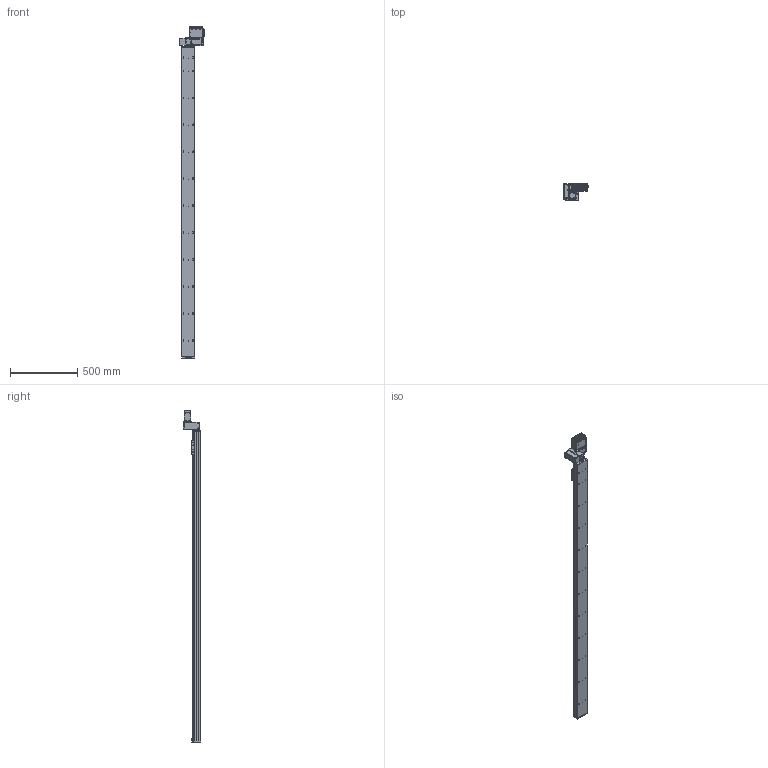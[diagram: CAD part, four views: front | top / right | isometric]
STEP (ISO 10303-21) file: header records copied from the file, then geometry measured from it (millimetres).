
FILE_DESCRIPTION (( 'STEP AP203' ), '1' );
FILE_NAME ('S10 TBN LT S2300.STEP', '2012-06-19T13:39:42', ( 'Conseil Régional Haute-Normandie' ), ( 'Conseil Régional Haute-Normandie' ), 'SwSTEP 2.0', 'SolidWorks 2010', '' );
FILE_SCHEMA (( 'CONFIG_CONTROL_DESIGN' ));
Length unit declared in the file: millimetre
Products named in the file (30): cache t皻e_Default; Cvis M5 L30_Default; vis M5 L12_Default; renvoi LH_Default; BU41 Carte Alimentation P05_3; Colonnette_3; BU45 Carte d''axe A11_5; Connecteur rond D12 4cts_5; Sub D 9cts 90_X2_00B_X0__3; Vis TF 3 torkx_1_1; axe 2300; axe2300_Default; S10 TBN LT S2300; cache t皻e axe_Default; embout; palette tbn; plaque de bout s10_Default; Plaque racord_Default; Vis M5 L16-2_Default_1; vis M5 L5_Default; Assem1_7; T_X2_00F4_X0_le contre le moteur_5; Moteur 60BLDC90A_3; Couvercle_3; T_X2_00F4_X0_le fond_3; Connecteur rond D10 3cts_5; Radiateur profil_X2_00E9_X0_ 100x25_3; Colonnette ronde_3; T_X2_00F4_X0_le Arri_X2_00E8_X0_re_5; T_X2_00F4_X0_le lat_X2_00E9_X0_rale_5
Assembly tree (63 placements, depth 3):
  S10 TBN LT S2300
    Plaque racord_Default
    renvoi LH_Default
    vis M5 L12_Default  x4
    vis M5 L5_Default  x4
    axe2300_Default
      axe 2300
    Vis M5 L16-2_Default_1  x4
    cache t皻e_Default  x2
    Cvis M5 L30_Default  x2
    plaque de bout s10_Default
    Assem1_7
      Couvercle_3
      T_X2_00F4_X0_le fond_3
      Colonnette_3  x2
      T_X2_00F4_X0_le Arri_X2_00E8_X0_re_5
      Vis TF 3 torkx_1_1  x21
      Connecteur rond D10 3cts_5  x2
      Radiateur profil_X2_00E9_X0_ 100x25_3
      T_X2_00F4_X0_le lat_X2_00E9_X0_rale_5  x2
      Sub D 9cts 90_X2_00B_X0__3
      Moteur 60BLDC90A_3
      Colonnette ronde_3
      T_X2_00F4_X0_le contre le moteur_5
      BU41 Carte Alimentation P05_3
      BU45 Carte d''axe A11_5
      Connecteur rond D12 4cts_5
    palette tbn
    embout
    cache t皻e axe_Default
Bounding box: 189.8 x 127 x 2466.49 mm (x, y, z)
Volume: 12758610 mm3; surface area: 1391818.4 mm2
Topology: 61 solids, 61 shells, 2373 faces, 5874 edges, 3787 vertices
Faces by surface type: plane 1114, cylinder 1034, cone 182, bspline 40, torus 3
Entity records: 49972 total; most frequent: CARTESIAN_POINT 8966, DIRECTION 8113, ORIENTED_EDGE 7328, EDGE_CURVE 3664, AXIS2_PLACEMENT_3D 3033, VERTEX_POINT 2391, VECTOR 2047, LINE 2047
